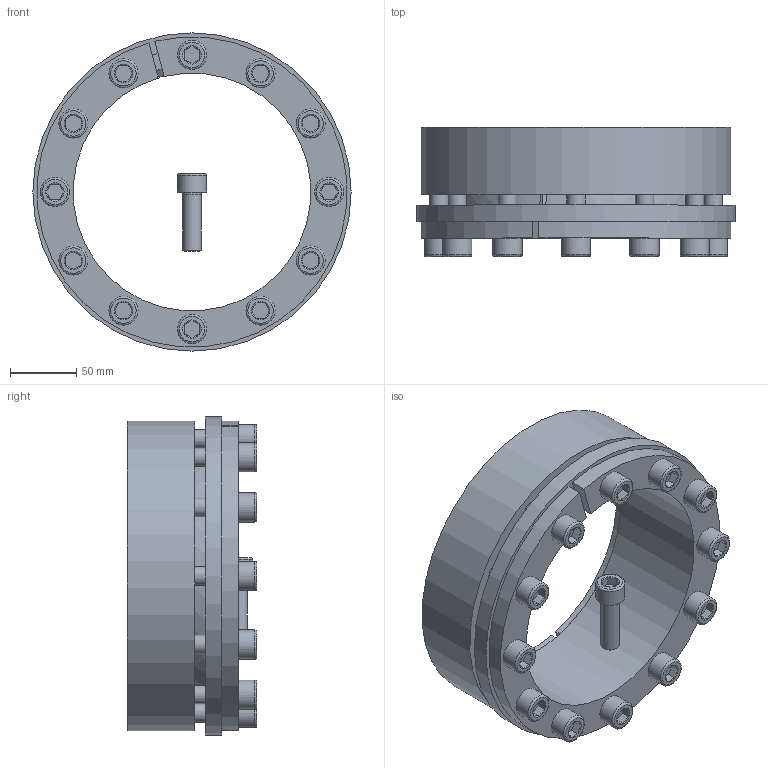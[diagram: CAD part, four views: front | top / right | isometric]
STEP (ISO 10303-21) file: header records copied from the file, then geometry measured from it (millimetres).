
FILE_DESCRIPTION( ( 'Unknown' ), '1' );
FILE_NAME( 'C:/Dokumente und Einstellungen/Sven/Desktop/homepage/cad - homepage/KBS71/KBS 71 - 180 x 235.stp', 'Unknown', ( 'Unknown' ), ( 'Unknown' ), 'XStep 1.0', 'Unknown', ' ' );
FILE_SCHEMA( ( 'automotive_design' ) );
Length unit declared in the file: millimetre
Products named in the file (3): Assem1; KBS 71 - 180 x 235; ISO EN DIN 4762 M14x45
Bounding box: 241 x 98 x 241 mm (x, y, z)
Volume: 2683246.8 mm3; surface area: 480086.1 mm2
Topology: 15 solids, 15 shells, 421 faces, 903 edges, 538 vertices
Faces by surface type: plane 188, cylinder 108, cone 99, torus 26
Full cylindrical faces by diameter (mm): 12 x13, 14 x74, 22 x13, 241 x2
Entity records: 2530 total; most frequent: CARTESIAN_POINT 425, DIRECTION 416, ORIENTED_EDGE 312, AXIS2_PLACEMENT_3D 183, EDGE_CURVE 156, EDGE_LOOP 150, VERTEX_POINT 112, FACE_OUTER_BOUND 104
